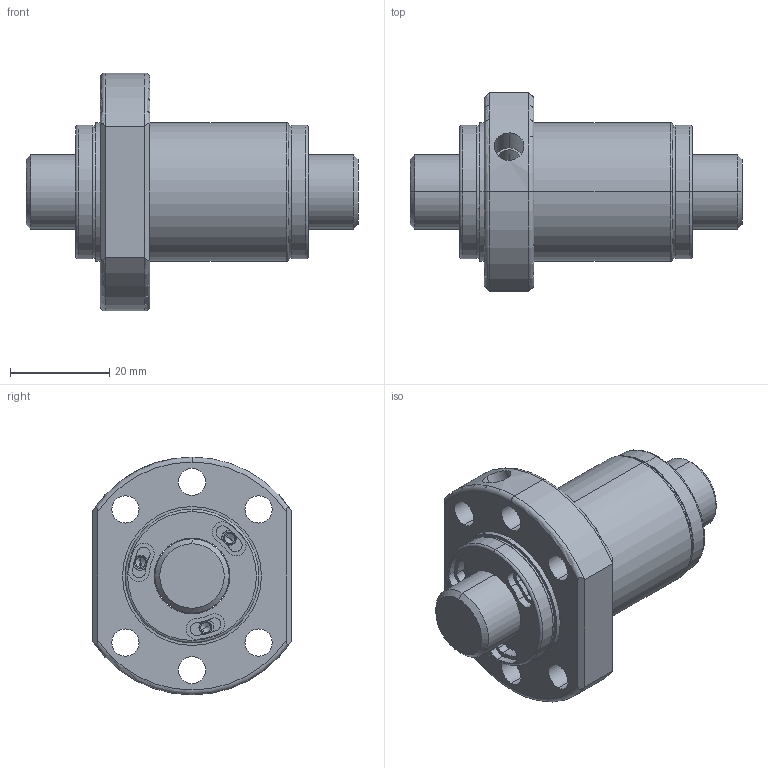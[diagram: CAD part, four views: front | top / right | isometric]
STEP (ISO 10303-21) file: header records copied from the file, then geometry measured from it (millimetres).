
FILE_DESCRIPTION (( 'STEP AP203' ), '1' );
FILE_NAME ('SFHR01610B1D-C.STEP', '2020-06-17T07:53:44', ( '' ), ( '' ), 'SwSTEP 2.0', 'SolidWorks 2013', '' );
FILE_SCHEMA (( 'CONFIG_CONTROL_DESIGN' ));
Length unit declared in the file: millimetre
Products named in the file (1): SFHR01610B1D-C
Bounding box: 67 x 40 x 48 mm (x, y, z)
Volume: 38573.3 mm3; surface area: 15007.6 mm2
Topology: 2 solids, 2 shells, 224 faces, 531 edges, 328 vertices
Faces by surface type: cylinder 127, plane 57, cone 28, torus 12
Entity records: 6824 total; most frequent: CARTESIAN_POINT 1320, DIRECTION 1299, ORIENTED_EDGE 1038, AXIS2_PLACEMENT_3D 567, EDGE_CURVE 519, CIRCLE 342, VERTEX_POINT 328, EDGE_LOOP 269
